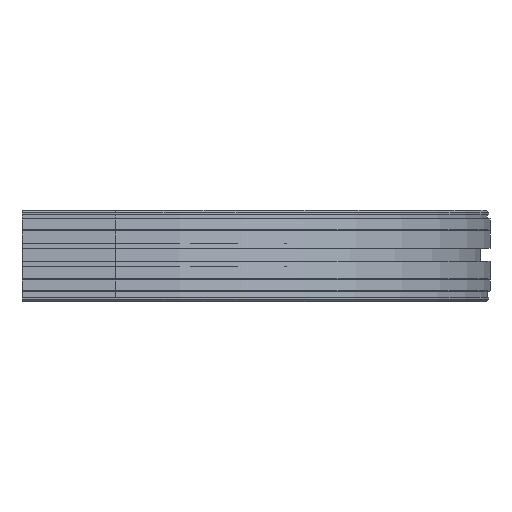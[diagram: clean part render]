
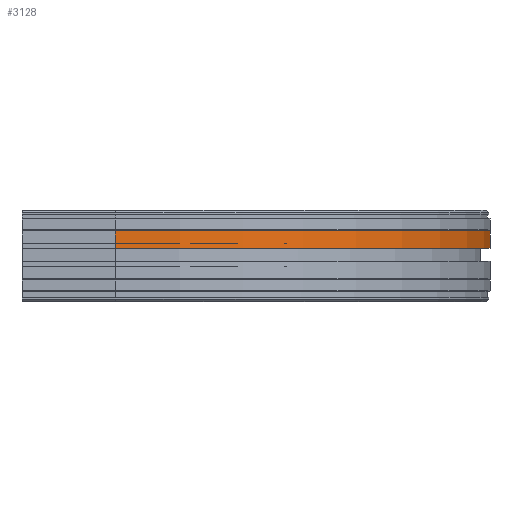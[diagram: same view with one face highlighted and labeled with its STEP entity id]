
A CAD part, front view. The second image highlights one B-rep face of the part: STEP entity #3128.
In plain terms, the highlighted cylindrical face has radius 321 mm (diameter 642 mm), a partial arc.
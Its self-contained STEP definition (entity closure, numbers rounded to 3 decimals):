
#1660=CARTESIAN_POINT('',(80.,-610.,-17.5));
#1661=VERTEX_POINT('',#1660);
#1691=CARTESIAN_POINT('',(80.,-610.,-32.5));
#1692=VERTEX_POINT('',#1691);
#1699=CARTESIAN_POINT('',(80.,-610.,-17.5));
#1700=DIRECTION('',(0.0,0.0,-1.0));
#1701=VECTOR('',#1700,15.);
#1702=LINE('',#1699,#1701);
#1703=EDGE_CURVE('',#1661,#1692,#1702,.T.);
#3085=CARTESIAN_POINT('',(80.0,32.0,-17.5));
#3086=VERTEX_POINT('',#3085);
#3087=CARTESIAN_POINT('',(80.,-289.,-17.5));
#3088=DIRECTION('',(0.0,0.0,-1.0));
#3089=DIRECTION('',(0.0,1.0,0.0));
#3090=AXIS2_PLACEMENT_3D('',#3087,#3088,#3089);
#3091=CIRCLE('',#3090,321.);
#3092=EDGE_CURVE('',#3086,#1661,#3091,.T.);
#3104=CARTESIAN_POINT('',(80.,-289.,-25.));
#3105=DIRECTION('',(0.0,0.0,-1.0));
#3106=DIRECTION('',(0.0,1.0,0.0));
#3107=AXIS2_PLACEMENT_3D('',#3104,#3105,#3106);
#3108=CYLINDRICAL_SURFACE('',#3107,321.);
#3109=ORIENTED_EDGE('',*,*,#1703,.T.);
#3110=CARTESIAN_POINT('',(80.0,32.0,-32.5));
#3111=VERTEX_POINT('',#3110);
#3112=CARTESIAN_POINT('',(80.,-289.,-32.5));
#3113=DIRECTION('',(0.0,0.0,-1.0));
#3114=DIRECTION('',(0.0,1.0,0.0));
#3115=AXIS2_PLACEMENT_3D('',#3112,#3113,#3114);
#3116=CIRCLE('',#3115,321.);
#3117=EDGE_CURVE('',#3111,#1692,#3116,.T.);
#3118=ORIENTED_EDGE('',*,*,#3117,.F.);
#3119=CARTESIAN_POINT('',(80.0,32.0,-17.5));
#3120=DIRECTION('',(0.0,0.0,-1.0));
#3121=VECTOR('',#3120,15.);
#3122=LINE('',#3119,#3121);
#3123=EDGE_CURVE('',#3086,#3111,#3122,.T.);
#3124=ORIENTED_EDGE('',*,*,#3123,.F.);
#3125=ORIENTED_EDGE('',*,*,#3092,.T.);
#3126=EDGE_LOOP('',(#3109,#3118,#3124,#3125));
#3127=FACE_OUTER_BOUND('',#3126,.T.);
#3128=ADVANCED_FACE('',(#3127),#3108,.T.);
